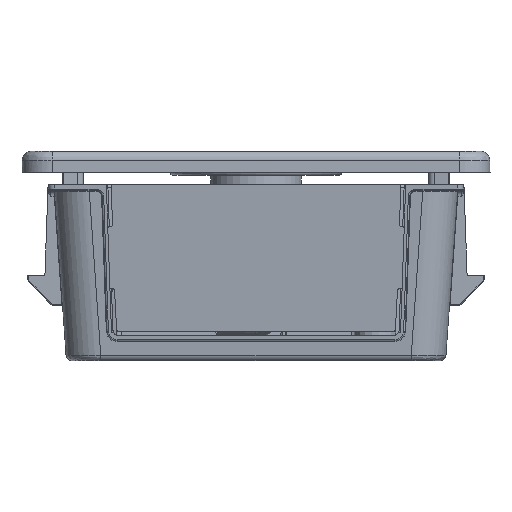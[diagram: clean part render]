
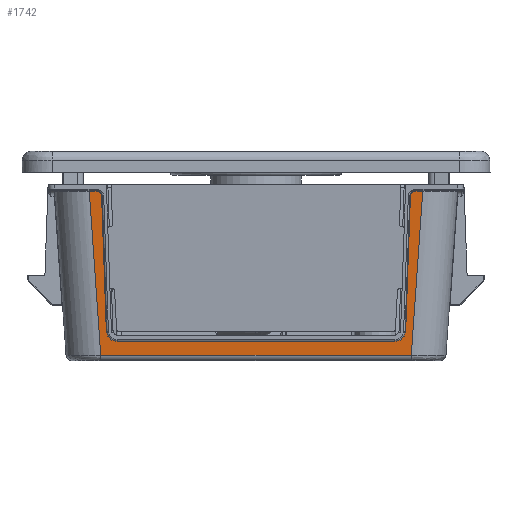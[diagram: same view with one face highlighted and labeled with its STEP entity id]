
A CAD part, front view. The second image highlights one B-rep face of the part: STEP entity #1742.
In plain terms, the highlighted planar face has unit normal (0, -0.998, -0.07).
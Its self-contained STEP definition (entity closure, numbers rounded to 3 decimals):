
#1742=ADVANCED_FACE('',(#36441),#36443,.T.);
#36441=FACE_BOUND('',#36442,.T.);
#36442=EDGE_LOOP('',(#59174,#59175,#59176,#59177,#59178,#59179,#59180,#59181,#59182,
#59183,#59184,#59185));
#36443=PLANE('',#36444);
#36444=AXIS2_PLACEMENT_3D('',#36445,#36446,#36447);
#36445=CARTESIAN_POINT('',(-37.25,-68.,33.));
#36446=DIRECTION('',(0.,-0.998,-0.07));
#36447=DIRECTION('',(-1.,0.,0.));
#59174=ORIENTED_EDGE('',*,*,#70405,.F.);
#59175=ORIENTED_EDGE('',*,*,#70442,.F.);
#59176=ORIENTED_EDGE('',*,*,#70443,.F.);
#59177=ORIENTED_EDGE('',*,*,#70444,.F.);
#59178=ORIENTED_EDGE('',*,*,#70445,.F.);
#59179=ORIENTED_EDGE('',*,*,#70446,.F.);
#59180=ORIENTED_EDGE('',*,*,#70447,.F.);
#59181=ORIENTED_EDGE('',*,*,#70448,.F.);
#59182=ORIENTED_EDGE('',*,*,#70449,.F.);
#59183=ORIENTED_EDGE('',*,*,#70450,.F.);
#59184=ORIENTED_EDGE('',*,*,#70451,.F.);
#59185=ORIENTED_EDGE('',*,*,#70439,.F.);
#70405=EDGE_CURVE('',#80381,#80378,#80383,.T.);
#70439=EDGE_CURVE('',#80378,#80433,#80434,.T.);
#70442=EDGE_CURVE('',#80438,#80381,#80439,.T.);
#70443=EDGE_CURVE('',#80440,#80438,#80441,.T.);
#70444=EDGE_CURVE('',#80442,#80440,#80443,.T.);
#70445=EDGE_CURVE('',#80444,#80442,#80445,.T.);
#70446=EDGE_CURVE('',#80446,#80444,#80447,.T.);
#70447=EDGE_CURVE('',#80448,#80446,#80449,.T.);
#70448=EDGE_CURVE('',#80450,#80448,#80451,.T.);
#70449=EDGE_CURVE('',#80452,#80450,#80453,.T.);
#70450=EDGE_CURVE('',#80454,#80452,#80455,.T.);
#70451=EDGE_CURVE('',#80433,#80454,#80456,.T.);
#80378=VERTEX_POINT('',#129179);
#80381=VERTEX_POINT('',#129213);
#80383=LINE('',#129218,#129219);
#80433=VERTEX_POINT('',#129493);
#80434=LINE('',#129494,#129495);
#80438=VERTEX_POINT('',#129530);
#80439=LINE('',#129531,#129532);
#80440=VERTEX_POINT('',#129534);
#80441=LINE('',#129535,#129536);
#80442=VERTEX_POINT('',#129538);
#80443=B_SPLINE_CURVE_WITH_KNOTS('',3,
(#129539,#129540,#129541,#129542,#129543,#129544,#129545,#129546,#129547,#129548,
#129549,#129550,#129551,#129552,#129553,#129554,#129555,#129556,#129557,#129558,
#129559,#129560,#129561,#129562,#129563,#129564,#129565,#129566),
.UNSPECIFIED.,.F.,.F.,
(4,2,2,2,2,2,2,2,2,2,2,2,2,4),
(0.,0.082,0.164,0.245,0.327,0.409,
0.491,0.573,0.655,0.736,0.818,
0.9,0.982,1.),
.UNSPECIFIED.);
#80444=VERTEX_POINT('',#129567);
#80445=LINE('',#129568,#129569);
#80446=VERTEX_POINT('',#129571);
#80447=CIRCLE('',#129572,3.7);
#80448=VERTEX_POINT('',#129576);
#80449=LINE('',#129577,#129578);
#80450=VERTEX_POINT('',#129580);
#80451=CIRCLE('',#129581,3.7);
#80452=VERTEX_POINT('',#129585);
#80453=LINE('',#129586,#129587);
#80454=VERTEX_POINT('',#129589);
#80455=B_SPLINE_CURVE_WITH_KNOTS('',3,
(#129590,#129591,#129592,#129593,#129594,#129595,#129596,#129597,#129598,#129599,
#129600,#129601,#129602,#129603,#129604,#129605,#129606,#129607,#129608,#129609,
#129610,#129611,#129612,#129613,#129614,#129615,#129616,#129617),
.UNSPECIFIED.,.F.,.F.,
(4,2,2,2,2,2,2,2,2,2,2,2,2,4),
(0.,0.082,0.164,0.245,0.327,0.409,
0.491,0.573,0.655,0.736,0.818,
0.9,0.982,1.),
.UNSPECIFIED.);
#80456=LINE('',#129618,#129619);
#129179=CARTESIAN_POINT('',(-21.831,-64.053,-23.44));
#129213=CARTESIAN_POINT('',(80.831,-64.053,-23.44));
#129218=CARTESIAN_POINT('',(80.831,-64.053,-23.44));
#129219=VECTOR('',#129220,1.);
#129220=DIRECTION('',(-1.,0.,0.));
#129493=CARTESIAN_POINT('',(-25.625,-67.847,30.814));
#129494=CARTESIAN_POINT('',(-21.831,-64.053,-23.44));
#129495=VECTOR('',#129496,1.);
#129496=DIRECTION('',(-0.07,-0.07,0.995));
#129530=CARTESIAN_POINT('',(84.625,-67.847,30.814));
#129531=CARTESIAN_POINT('',(84.625,-67.847,30.814));
#129532=VECTOR('',#129533,1.);
#129533=DIRECTION('',(-0.07,0.07,-0.995));
#129534=CARTESIAN_POINT('',(82.357,-67.847,30.814));
#129535=CARTESIAN_POINT('',(82.357,-67.847,30.814));
#129536=VECTOR('',#129537,1.);
#129537=DIRECTION('',(1.,0.,0.));
#129538=CARTESIAN_POINT('',(80.558,-67.726,29.077));
#129539=CARTESIAN_POINT('',(80.558,-67.726,29.077));
#129540=CARTESIAN_POINT('',(80.563,-67.731,29.152));
#129541=CARTESIAN_POINT('',(80.568,-67.736,29.227));
#129542=CARTESIAN_POINT('',(80.592,-67.747,29.376));
#129543=CARTESIAN_POINT('',(80.609,-67.752,29.45));
#129544=CARTESIAN_POINT('',(80.651,-67.762,29.594));
#129545=CARTESIAN_POINT('',(80.677,-67.767,29.666));
#129546=CARTESIAN_POINT('',(80.738,-67.776,29.803));
#129547=CARTESIAN_POINT('',(80.772,-67.781,29.871));
#129548=CARTESIAN_POINT('',(80.849,-67.79,30.));
#129549=CARTESIAN_POINT('',(80.892,-67.795,30.063));
#129550=CARTESIAN_POINT('',(80.985,-67.803,30.181));
#129551=CARTESIAN_POINT('',(81.035,-67.807,30.238));
#129552=CARTESIAN_POINT('',(81.142,-67.814,30.344));
#129553=CARTESIAN_POINT('',(81.199,-67.818,30.394));
#129554=CARTESIAN_POINT('',(81.318,-67.824,30.486));
#129555=CARTESIAN_POINT('',(81.381,-67.827,30.528));
#129556=CARTESIAN_POINT('',(81.511,-67.832,30.604));
#129557=CARTESIAN_POINT('',(81.579,-67.835,30.639));
#129558=CARTESIAN_POINT('',(81.717,-67.839,30.698));
#129559=CARTESIAN_POINT('',(81.789,-67.841,30.723));
#129560=CARTESIAN_POINT('',(81.933,-67.844,30.765));
#129561=CARTESIAN_POINT('',(82.007,-67.845,30.781));
#129562=CARTESIAN_POINT('',(82.156,-67.846,30.804));
#129563=CARTESIAN_POINT('',(82.231,-67.847,30.811));
#129564=CARTESIAN_POINT('',(82.323,-67.847,30.814));
#129565=CARTESIAN_POINT('',(82.34,-67.847,30.814));
#129566=CARTESIAN_POINT('',(82.357,-67.847,30.814));
#129567=CARTESIAN_POINT('',(79.002,-64.618,-15.371));
#129568=CARTESIAN_POINT('',(79.002,-64.618,-15.371));
#129569=VECTOR('',#129570,1.);
#129570=DIRECTION('',(0.035,-0.07,0.997));
#129571=CARTESIAN_POINT('',(75.304,-64.368,-18.934));
#129572=AXIS2_PLACEMENT_3D('',#129573,#129574,#129575);
#129573=CARTESIAN_POINT('',(75.304,-64.627,-15.243));
#129574=DIRECTION('',(0.,-0.998,-0.07));
#129575=DIRECTION('',(0.,0.07,-0.998));
#129576=CARTESIAN_POINT('',(-16.304,-64.368,-18.934));
#129577=CARTESIAN_POINT('',(-16.304,-64.368,-18.934));
#129578=VECTOR('',#129579,1.);
#129579=DIRECTION('',(1.,0.,0.));
#129580=CARTESIAN_POINT('',(-20.002,-64.618,-15.371));
#129581=AXIS2_PLACEMENT_3D('',#129582,#129583,#129584);
#129582=CARTESIAN_POINT('',(-16.304,-64.627,-15.243));
#129583=DIRECTION('',(0.,-0.998,-0.07));
#129584=DIRECTION('',(-0.999,0.002,-0.035));
#129585=CARTESIAN_POINT('',(-21.558,-67.726,29.077));
#129586=CARTESIAN_POINT('',(-21.558,-67.726,29.077));
#129587=VECTOR('',#129588,1.);
#129588=DIRECTION('',(0.035,0.07,-0.997));
#129589=CARTESIAN_POINT('',(-23.357,-67.847,30.814));
#129590=CARTESIAN_POINT('',(-23.357,-67.847,30.814));
#129591=CARTESIAN_POINT('',(-23.282,-67.847,30.812));
#129592=CARTESIAN_POINT('',(-23.206,-67.847,30.809));
#129593=CARTESIAN_POINT('',(-23.057,-67.845,30.79));
#129594=CARTESIAN_POINT('',(-22.982,-67.844,30.776));
#129595=CARTESIAN_POINT('',(-22.837,-67.842,30.739));
#129596=CARTESIAN_POINT('',(-22.764,-67.84,30.715));
#129597=CARTESIAN_POINT('',(-22.625,-67.836,30.66));
#129598=CARTESIAN_POINT('',(-22.556,-67.834,30.628));
#129599=CARTESIAN_POINT('',(-22.424,-67.829,30.555));
#129600=CARTESIAN_POINT('',(-22.36,-67.826,30.514));
#129601=CARTESIAN_POINT('',(-22.238,-67.82,30.426));
#129602=CARTESIAN_POINT('',(-22.18,-67.817,30.378));
#129603=CARTESIAN_POINT('',(-22.07,-67.809,30.275));
#129604=CARTESIAN_POINT('',(-22.018,-67.806,30.219));
#129605=CARTESIAN_POINT('',(-21.922,-67.797,30.103));
#129606=CARTESIAN_POINT('',(-21.877,-67.793,30.042));
#129607=CARTESIAN_POINT('',(-21.797,-67.784,29.915));
#129608=CARTESIAN_POINT('',(-21.76,-67.78,29.848));
#129609=CARTESIAN_POINT('',(-21.696,-67.77,29.712));
#129610=CARTESIAN_POINT('',(-21.668,-67.765,29.642));
#129611=CARTESIAN_POINT('',(-21.622,-67.755,29.499));
#129612=CARTESIAN_POINT('',(-21.603,-67.75,29.425));
#129613=CARTESIAN_POINT('',(-21.575,-67.74,29.277));
#129614=CARTESIAN_POINT('',(-21.565,-67.734,29.202));
#129615=CARTESIAN_POINT('',(-21.559,-67.728,29.11));
#129616=CARTESIAN_POINT('',(-21.559,-67.727,29.093));
#129617=CARTESIAN_POINT('',(-21.558,-67.726,29.077));
#129618=CARTESIAN_POINT('',(-25.625,-67.847,30.814));
#129619=VECTOR('',#129620,1.);
#129620=DIRECTION('',(1.,0.,0.));
